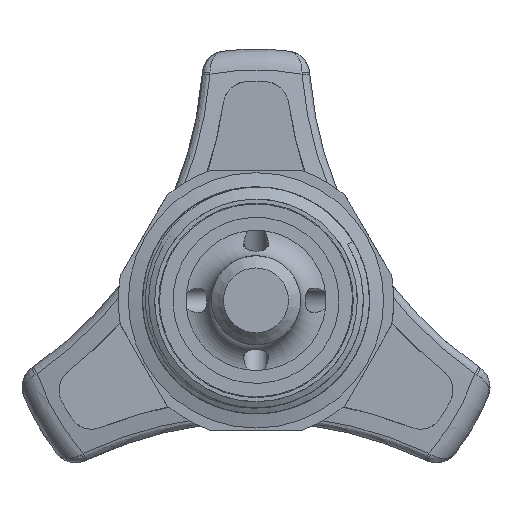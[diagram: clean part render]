
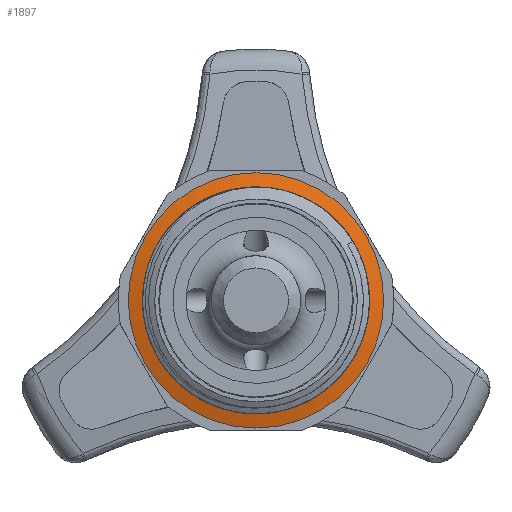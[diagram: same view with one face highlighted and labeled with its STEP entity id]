
A CAD part, front view. The second image highlights one B-rep face of the part: STEP entity #1897.
In plain terms, the highlighted conical face has half-angle 75 degrees and reference radius 13 mm.
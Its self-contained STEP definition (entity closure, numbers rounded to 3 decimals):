
#302=CONICAL_SURFACE('',#7215,13.,75.);
#507=FACE_BOUND('',#2965,.T.);
#508=FACE_BOUND('',#2966,.T.);
#1897=ADVANCED_FACE('',(#507,#508),#302,.T.);
#2965=EDGE_LOOP('',(#4668));
#2966=EDGE_LOOP('',(#4669));
#4668=ORIENTED_EDGE('',*,*,#6257,.T.);
#4669=ORIENTED_EDGE('',*,*,#6256,.F.);
#5371=VERTEX_POINT('',#17447);
#5372=VERTEX_POINT('',#17450);
#6256=EDGE_CURVE('',#5371,#5371,#6552,.T.);
#6257=EDGE_CURVE('',#5372,#5372,#6553,.T.);
#6552=CIRCLE('',#7212,13.);
#6553=CIRCLE('',#7214,15.75);
#7212=AXIS2_PLACEMENT_3D('',#17446,#8832,#8833);
#7214=AXIS2_PLACEMENT_3D('',#17449,#8836,#8837);
#7215=AXIS2_PLACEMENT_3D('',#17451,#8838,#8839);
#8832=DIRECTION('',(0.,-1.,0.));
#8833=DIRECTION('',(1.,0.,0.));
#8836=DIRECTION('',(0.,-1.,0.));
#8837=DIRECTION('',(1.,0.,0.));
#8838=DIRECTION('',(0.,1.,0.));
#8839=DIRECTION('',(-1.,0.,0.));
#17446=CARTESIAN_POINT('',(7.801,5.192,0.));
#17447=CARTESIAN_POINT('',(20.801,5.192,0.));
#17449=CARTESIAN_POINT('',(7.801,5.929,0.));
#17450=CARTESIAN_POINT('',(23.551,5.929,0.));
#17451=CARTESIAN_POINT('',(7.801,5.192,0.));
